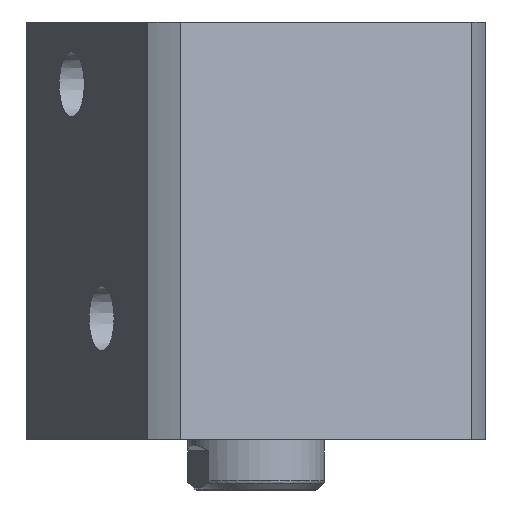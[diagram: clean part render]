
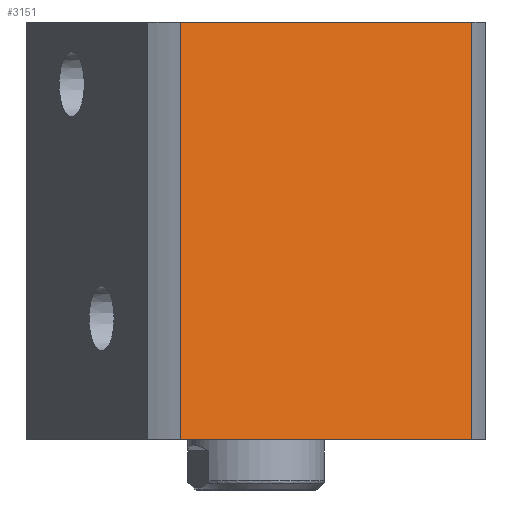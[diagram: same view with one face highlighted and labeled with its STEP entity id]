
A CAD part, front view. The second image highlights one B-rep face of the part: STEP entity #3151.
In plain terms, the highlighted planar face has unit normal (0.383, -0.924, 0) as drawn and (0, -1, 0) by its records, which use the part's own axes.
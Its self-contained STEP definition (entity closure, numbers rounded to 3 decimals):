
#125 = ORIENTED_EDGE ( 'NONE', *, *, #7487, .F. ) ;
#1654 = PLANE ( 'NONE',  #2803 ) ;
#1672 = FACE_OUTER_BOUND ( 'NONE', #14447, .T. ) ;
#2210 = VECTOR ( 'NONE', #5705, 1000. ) ;
#2803 = AXIS2_PLACEMENT_3D ( 'NONE', #16652, #13986, #5782 ) ;
#2938 = EDGE_CURVE ( 'NONE', #4766, #8284, #10684, .T. ) ;
#2973 = VECTOR ( 'NONE', #6698, 1000. ) ;
#3151 = ADVANCED_FACE ( 'NONE', ( #1672 ), #1654, .F. ) ;
#3456 = VECTOR ( 'NONE', #7760, 1000. ) ;
#3790 = ORIENTED_EDGE ( 'NONE', *, *, #2938, .F. ) ;
#4061 = CARTESIAN_POINT ( 'NONE',  ( -40.435, -47., 107. ) ) ;
#4766 = VERTEX_POINT ( 'NONE', #9165 ) ;
#5330 = VERTEX_POINT ( 'NONE', #16684 ) ;
#5705 = DIRECTION ( 'NONE',  ( 0., 0., 1. ) ) ;
#5782 = DIRECTION ( 'NONE',  ( 0., 0., 1. ) ) ;
#6361 = CARTESIAN_POINT ( 'NONE',  ( -47., -47., 107. ) ) ;
#6375 = VECTOR ( 'NONE', #15818, 1000. ) ;
#6698 = DIRECTION ( 'NONE',  ( 0., 0., -1. ) ) ;
#6983 = VERTEX_POINT ( 'NONE', #4061 ) ;
#7432 = ORIENTED_EDGE ( 'NONE', *, *, #15270, .T. ) ;
#7487 = EDGE_CURVE ( 'NONE', #6983, #4766, #17544, .T. ) ;
#7760 = DIRECTION ( 'NONE',  ( 1., 0., 0. ) ) ;
#8284 = VERTEX_POINT ( 'NONE', #9166 ) ;
#9165 = CARTESIAN_POINT ( 'NONE',  ( 40.435, -47., 107. ) ) ;
#9166 = CARTESIAN_POINT ( 'NONE',  ( 40.435, -47., 0. ) ) ;
#10128 = EDGE_CURVE ( 'NONE', #5330, #6983, #12697, .T. ) ;
#10684 = LINE ( 'NONE', #12156, #2973 ) ;
#12156 = CARTESIAN_POINT ( 'NONE',  ( 40.435, -47., -193. ) ) ;
#12538 = CARTESIAN_POINT ( 'NONE',  ( -40.435, -47., -193. ) ) ;
#12697 = LINE ( 'NONE', #12538, #2210 ) ;
#13986 = DIRECTION ( 'NONE',  ( 0., 1., 0. ) ) ;
#14447 = EDGE_LOOP ( 'NONE', ( #14695, #7432, #3790, #125 ) ) ;
#14466 = CARTESIAN_POINT ( 'NONE',  ( -47., -47., 0. ) ) ;
#14695 = ORIENTED_EDGE ( 'NONE', *, *, #10128, .F. ) ;
#15270 = EDGE_CURVE ( 'NONE', #5330, #8284, #15802, .T. ) ;
#15802 = LINE ( 'NONE', #14466, #6375 ) ;
#15818 = DIRECTION ( 'NONE',  ( 1., 0., 0. ) ) ;
#16652 = CARTESIAN_POINT ( 'NONE',  ( -47., -47., 107. ) ) ;
#16684 = CARTESIAN_POINT ( 'NONE',  ( -40.435, -47., 0. ) ) ;
#17544 = LINE ( 'NONE', #6361, #3456 ) ;
